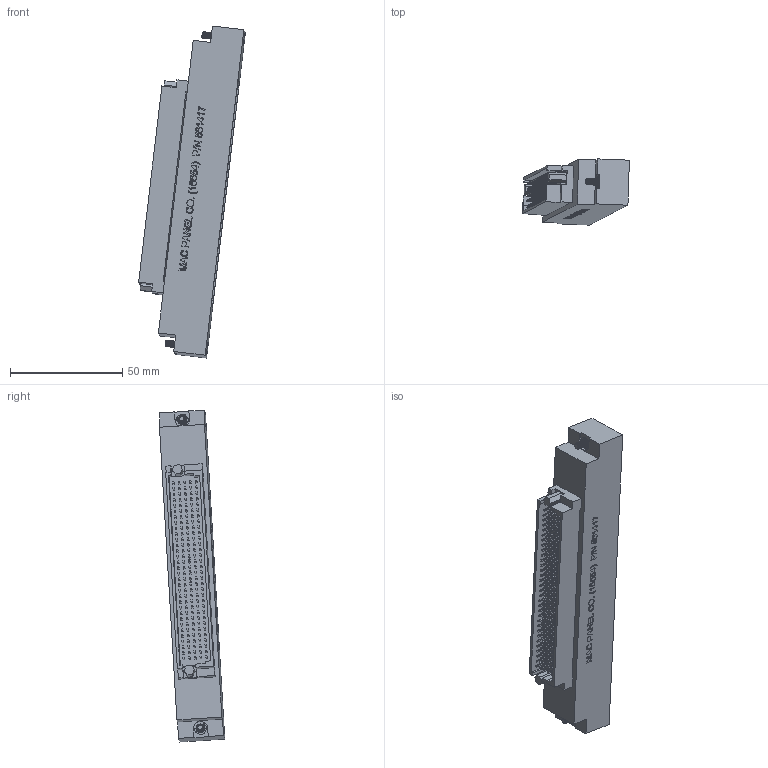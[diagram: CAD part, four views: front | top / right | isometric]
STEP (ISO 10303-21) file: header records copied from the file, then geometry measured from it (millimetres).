
FILE_DESCRIPTION((''),'2;1');
FILE_NAME('C:\old_Drawings\shrinkwrapped website .stp files\561417-STP.stp','2011-05-31T13:03:51',('GaryRobinson'),(''),'Autodesk Inventor 2011','Autodesk Inventor 2011','');
FILE_SCHEMA(('CONFIG_CONTROL_DESIGN'));
Length unit declared in the file: inch
Products named in the file (1): 561417-STP
Bounding box: 47.5 x 29.18 x 147.67 mm (x, y, z)
Surface area: 40093.3 mm2 (no closed solid volume)
Topology: 0 solids, 11 shells, 2738 faces, 7056 edges, 4700 vertices
Faces by surface type: plane 2562, bspline 106, cylinder 64, cone 6
Full cylindrical faces by diameter (mm): 0.254 x1, 0.508 x3, 2.845 x14, 3.429 x2, 3.962 x4, 4.064 x2, 4.648 x2, 5.08 x2, 5.537 x2
Entity records: 86363 total; most frequent: CARTESIAN_POINT 17107, ORIENTED_EDGE 13972, DIRECTION 12114, EDGE_CURVE 6986, VECTOR 6664, LINE 6664, VERTEX_POINT 4670, EDGE_LOOP 3444
